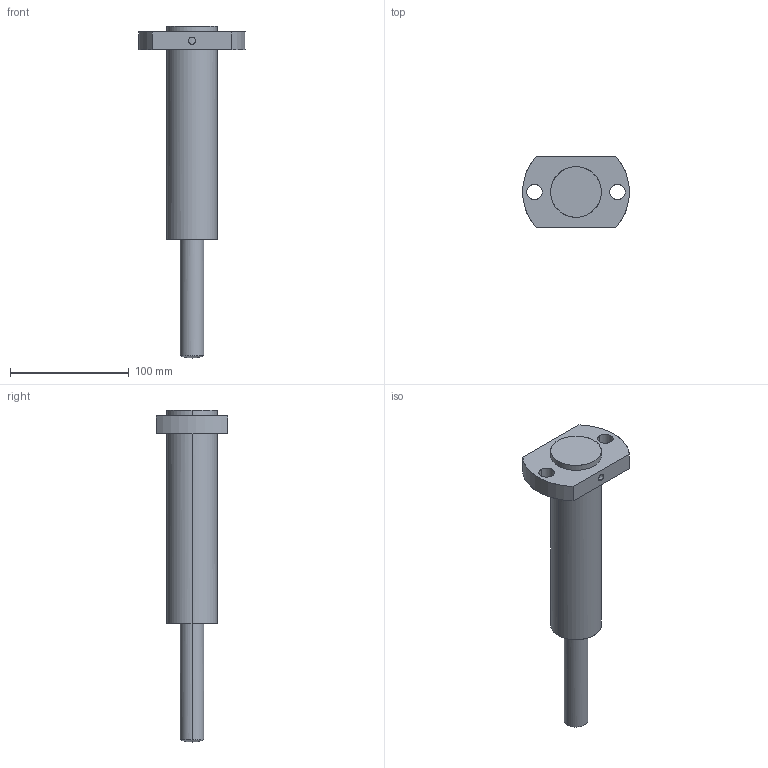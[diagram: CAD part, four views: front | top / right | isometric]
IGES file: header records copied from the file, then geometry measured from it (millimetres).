
Global section: file name: E:\UnigraphicsGraphicData\MISUMI_PRESS-PARTS\IGES\3d_papz20-100-180-160-90_01705_r00.igs; native system: NX V5.0; preprocessor: UGS NX IGES V5.0; author: MISUMI; date: 20110105.162227; units: millimetre
Bounding box: 90 x 60 x 280 mm (x, y, z)
Surface area: 47692.5 mm2 (no closed solid volume)
Topology: 0 solids, 0 shells, 23 faces, 220 edges, 218 vertices
Faces by surface type: bspline 23
